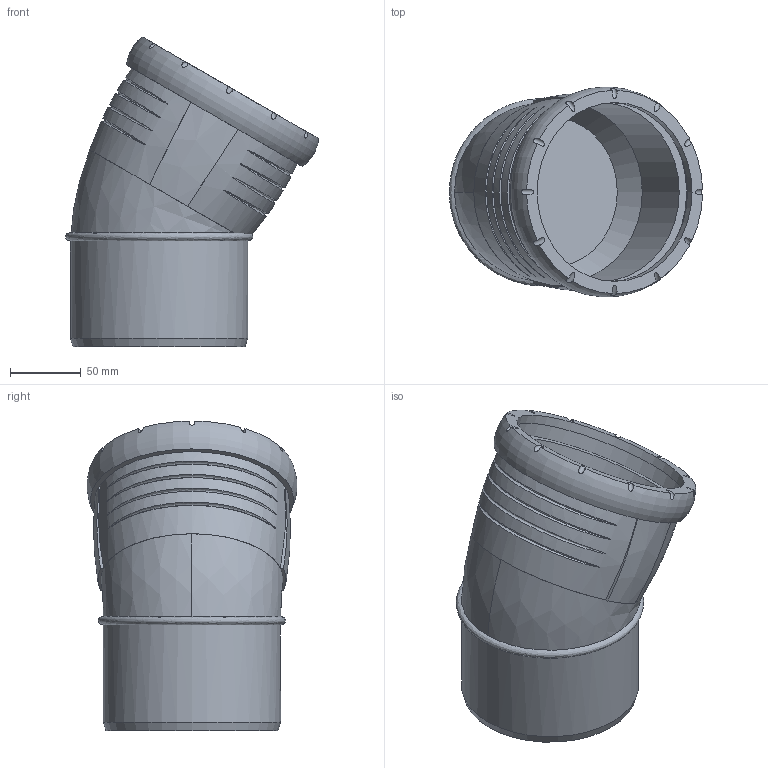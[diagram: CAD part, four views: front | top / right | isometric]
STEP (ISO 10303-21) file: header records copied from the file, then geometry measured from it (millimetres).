
FILE_DESCRIPTION(/* description */ (''),/* implementation_level */ '2;1');
FILE_NAME(/* name */ 'H:\Geberit-Teile\Export\Bogen_TEST\stp\393621.stp',/* time_stamp */ '2017-02-14T10:14:48+01:00',/* author */ ('seihe2'),/* organization */ (''),/* preprocessor_version */ 'ST-DEVELOPER v15.2',/* originating_system */ 'Autodesk Inventor 2014',/* authorisation */ '');
FILE_SCHEMA (('AUTOMOTIVE_DESIGN { 1 0 10303 214 3 1 1 }'));
Length unit declared in the file: millimetre
Products named in the file (1): 393621
Bounding box: 178.92 x 148.35 x 218.97 mm (x, y, z)
Volume: 788066.4 mm3; surface area: 189282.8 mm2
Topology: 2 solids, 2 shells, 56 faces, 138 edges, 97 vertices
Faces by surface type: bspline 26, cylinder 19, plane 8, cone 2, torus 1
Full cylindrical faces by diameter (mm): 115.2 x1, 125.2 x1, 126 x1, 126.4 x1, 138.1 x1
Entity records: 4193 total; most frequent: CARTESIAN_POINT 2972, ORIENTED_EDGE 258, DIRECTION 180, EDGE_CURVE 127, VERTEX_POINT 94, AXIS2_PLACEMENT_3D 90, EDGE_LOOP 78, B_SPLINE_CURVE_WITH_KNOTS 68
